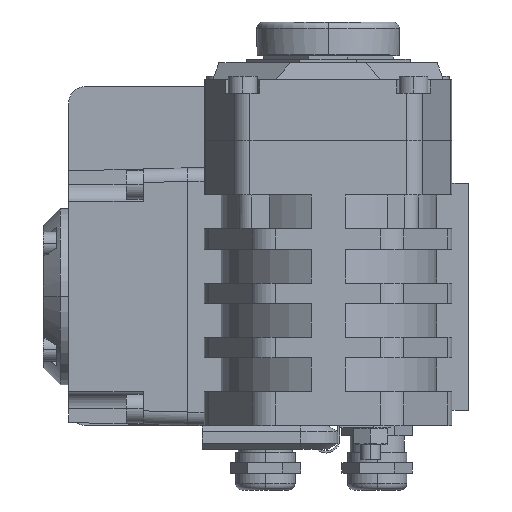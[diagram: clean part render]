
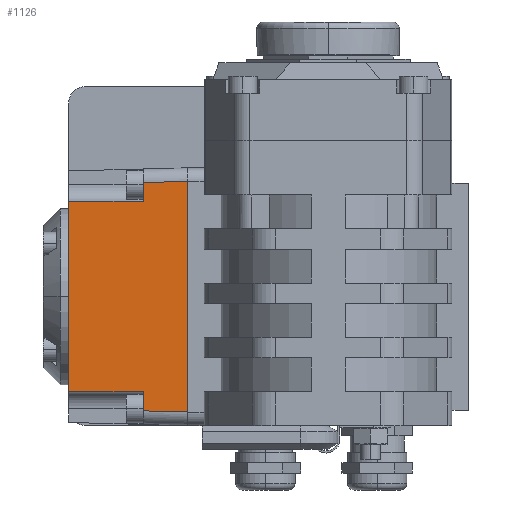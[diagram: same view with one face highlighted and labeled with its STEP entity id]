
A CAD part, left-side view. The second image highlights one B-rep face of the part: STEP entity #1126.
In plain terms, the highlighted planar face has unit normal (-1, 0.026, 0).
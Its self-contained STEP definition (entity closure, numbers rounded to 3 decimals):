
#7=CARTESIAN_POINT('',(-51.,0.,34.001));
#37=CARTESIAN_POINT('',(-51.,0.,-34.001));
#45=DIRECTION('',(0.,0.,1.));
#46=VECTOR('',#45,68.003);
#47=CARTESIAN_POINT('',(-51.,0.,-34.001));
#48=LINE('',#47,#46);
#184=DIRECTION('',(0.,0.,1.));
#185=VECTOR('',#184,56.);
#186=CARTESIAN_POINT('',(-50.083,35.,-28.));
#187=LINE('',#186,#185);
#251=DIRECTION('',(0.,0.,1.));
#252=VECTOR('',#251,5.661);
#253=CARTESIAN_POINT('',(-50.66,13.,-33.661));
#254=LINE('',#253,#252);
#255=DIRECTION('',(-0.026,-1.,0.));
#256=VECTOR('',#255,22.008);
#257=CARTESIAN_POINT('',(-50.083,35.,-28.));
#258=LINE('',#257,#256);
#259=DIRECTION('',(-0.026,-1.,0.));
#260=VECTOR('',#259,22.008);
#261=CARTESIAN_POINT('',(-50.083,35.,28.));
#262=LINE('',#261,#260);
#263=DIRECTION('',(0.,0.,1.));
#264=VECTOR('',#263,5.661);
#265=CARTESIAN_POINT('',(-50.66,13.,28.));
#266=LINE('',#265,#264);
#267=DIRECTION('',(0.026,0.999,-0.026));
#268=VECTOR('',#267,13.009);
#269=CARTESIAN_POINT('',(-51.,0.,34.001));
#270=LINE('',#269,#268);
#271=DIRECTION('',(0.026,0.999,0.026));
#272=VECTOR('',#271,13.009);
#273=CARTESIAN_POINT('',(-51.,0.,-34.001));
#274=LINE('',#273,#272);
#652=VERTEX_POINT('',#7);
#655=VERTEX_POINT('',#37);
#675=CARTESIAN_POINT('',(-50.66,13.,-33.661));
#676=CARTESIAN_POINT('',(-50.66,13.,-28.));
#677=VERTEX_POINT('',#675);
#678=VERTEX_POINT('',#676);
#679=CARTESIAN_POINT('',(-50.66,13.,28.));
#680=CARTESIAN_POINT('',(-50.66,13.,33.661));
#681=VERTEX_POINT('',#679);
#682=VERTEX_POINT('',#680);
#695=CARTESIAN_POINT('',(-50.083,35.,-28.));
#696=CARTESIAN_POINT('',(-50.083,35.,28.));
#697=VERTEX_POINT('',#695);
#698=VERTEX_POINT('',#696);
#1109=CARTESIAN_POINT('',(-50.542,17.5,0.));
#1110=DIRECTION('',(-1.,0.026,0.));
#1111=DIRECTION('',(-0.026,-1.,0.));
#1112=AXIS2_PLACEMENT_3D('',#1109,#1110,#1111);
#1113=PLANE('',#1112);
#1114=ORIENTED_EDGE('',*,*,#907,.T.);
#1115=ORIENTED_EDGE('',*,*,#1102,.F.);
#1116=ORIENTED_EDGE('',*,*,#995,.T.);
#1118=ORIENTED_EDGE('',*,*,#1117,.T.);
#1119=ORIENTED_EDGE('',*,*,#919,.T.);
#1120=ORIENTED_EDGE('',*,*,#849,.F.);
#1121=ORIENTED_EDGE('',*,*,#834,.F.);
#1123=ORIENTED_EDGE('',*,*,#1122,.T.);
#1124=EDGE_LOOP('',(#1114,#1115,#1116,#1118,#1119,#1120,#1121,#1123));
#1125=FACE_OUTER_BOUND('',#1124,.F.);
#1126=ADVANCED_FACE('',(#1125),#1113,.T.);
#834=EDGE_CURVE('',#655,#652,#48,.T.);
#849=EDGE_CURVE('',#652,#682,#270,.T.);
#907=EDGE_CURVE('',#677,#678,#254,.T.);
#919=EDGE_CURVE('',#681,#682,#266,.T.);
#995=EDGE_CURVE('',#697,#698,#187,.T.);
#1102=EDGE_CURVE('',#697,#678,#258,.T.);
#1117=EDGE_CURVE('',#698,#681,#262,.T.);
#1122=EDGE_CURVE('',#655,#677,#274,.T.);
